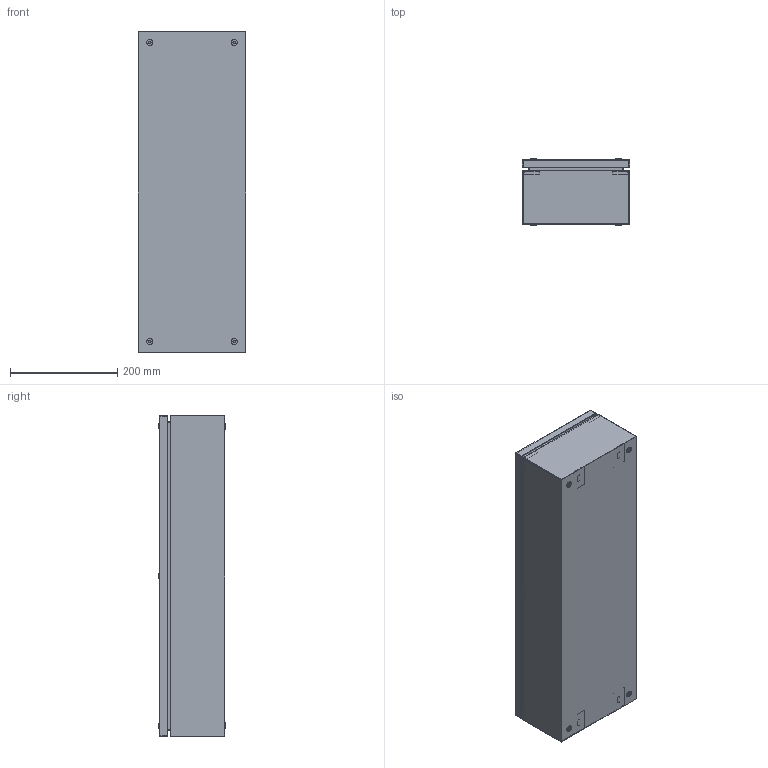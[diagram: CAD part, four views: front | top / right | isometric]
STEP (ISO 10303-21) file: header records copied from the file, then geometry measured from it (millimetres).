
FILE_DESCRIPTION(('Open CASCADE Model'),'2;1');
FILE_NAME('Open CASCADE Shape Model','2025-11-12T17:51:58',('Author'),( 'Open CASCADE'),'Open CASCADE STEP processor 7.8','Open CASCADE 7.8' ,'Unknown');
FILE_SCHEMA(('AUTOMOTIVE_DESIGN { 1 0 10303 214 1 1 1 1 }'));
Length unit declared in the file: millimetre
Products named in the file (17): Compound1; Compound2; Compound3; Solid1; Solid2; Solid3; Solid4; Solid5; Solid6; Compound4; Compound5; Solid7; Solid8; Solid9; Solid10; Solid11; Solid12
Assembly tree (39 placements, depth 5):
  Compound1
    Compound2
      Compound3
        Solid1
        Solid2  x2
        Solid3  x2
        Solid4  x2
        Solid5
        Solid6  x2
      Compound4
        Compound5
          Solid7
          Solid5
        Solid8
      Solid9  x6
      Solid10  x6
      Solid11  x6
    Solid12  x4
Bounding box: 200 x 123.79 x 600 mm (x, y, z)
Volume: 742078.9 mm3; surface area: 1061104.6 mm2
Topology: 35 solids, 35 shells, 1220 faces, 3292 edges, 2176 vertices
Faces by surface type: plane 896, cylinder 172, cone 68, torus 40, bspline 32, sphere 12
Full cylindrical faces by diameter (mm): 1.5 x4, 4 x14, 4.134 x6, 5 x10, 5.2 x6, 5.3 x6, 5.5 x6, 6 x2, 6.5 x4, 7.5 x8, 8 x10, 8.5 x6, 11.5 x4, 13.5 x6, 15.791 x6
Entity records: 16480 total; most frequent: CARTESIAN_POINT 4561, ORIENTED_EDGE 2480, DIRECTION 2275, EDGE_CURVE 1240, LINE 843, VECTOR 843, VERTEX_POINT 820, AXIS2_PLACEMENT_3D 716
